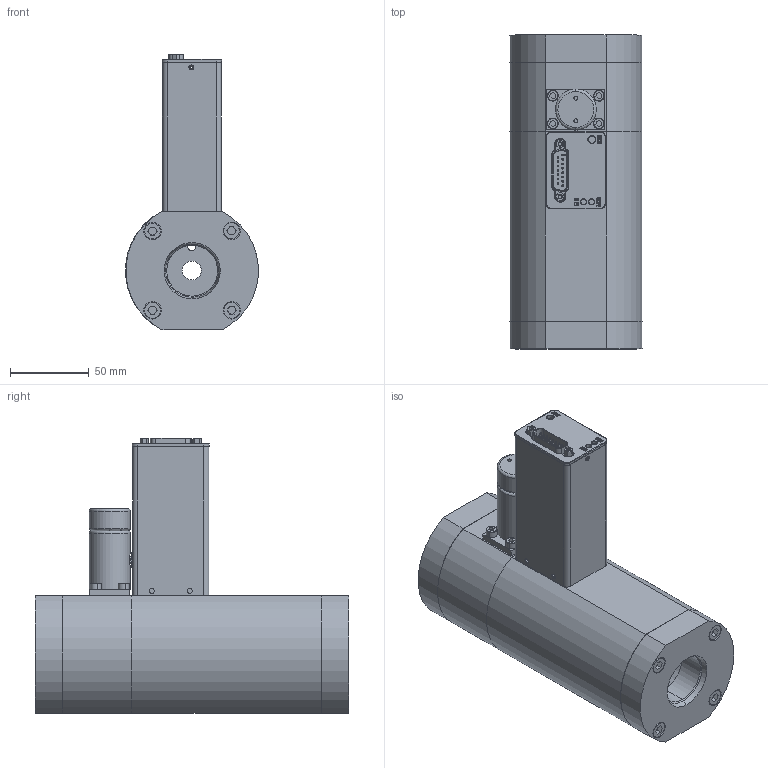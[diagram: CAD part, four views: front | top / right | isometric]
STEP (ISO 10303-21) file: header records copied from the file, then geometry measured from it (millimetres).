
FILE_DESCRIPTION (( 'STEP AP203' ), '1' );
FILE_NAME ('SLA5853-S-2R-2-C-REVB.STEP', '2017-10-03T14:56:04', ( 'mrutkowski' ), ( 'Hewlett-Packard Company' ), 'SwSTEP 2.0', 'SolidWorks 2017', '' );
FILE_SCHEMA (( 'CONFIG_CONTROL_DESIGN' ));
Length unit declared in the file: inch
Products named in the file (1): SLA5853-S-2R-2-C-REVB
Bounding box: 83.91 x 198.8 x 174.47 mm (x, y, z)
Surface area: 131205.3 mm2 (no closed solid volume)
Topology: 0 solids, 41 shells, 539 faces, 1843 edges, 1312 vertices
Faces by surface type: plane 220, cylinder 151, cone 105, bspline 63
Entity records: 22752 total; most frequent: CARTESIAN_POINT 7169, DIRECTION 3220, ORIENTED_EDGE 2866, EDGE_CURVE 1842, VERTEX_POINT 1312, AXIS2_PLACEMENT_3D 1187, VECTOR 846, LINE 846
